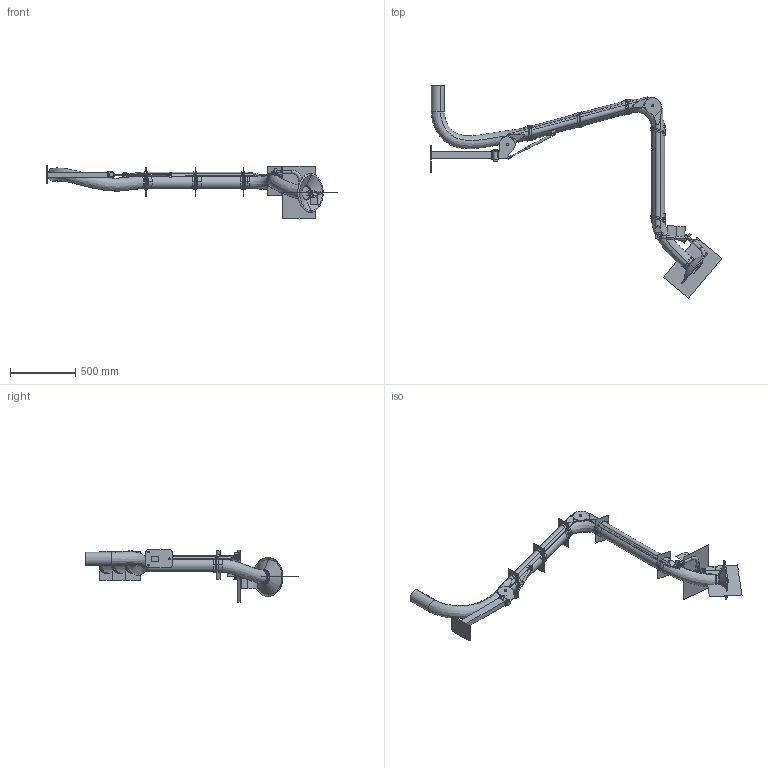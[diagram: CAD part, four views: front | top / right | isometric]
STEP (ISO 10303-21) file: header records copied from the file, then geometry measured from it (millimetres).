
FILE_DESCRIPTION((''),'2;1');
FILE_NAME('131010','2020-01-16T09:36:07',('Tomas Bellgran'),(''),'CREO PARAMETRIC BY PTC INC, 2018260','CREO PARAMETRIC BY PTC INC, 2018260','');
FILE_SCHEMA(('AUTOMOTIVE_DESIGN { 1 0 10303 214 1 1 1 1 }'));
Products named in the file (33): 131085_LIGHT; 131041; 131045_LIGHT; 131045; 144355; 131150; 139380; 131151; 131170; 144356; 131125_LIGHT; 131125; 131111_LIGHT; 131111; 130317; ROD_STAB_8-160-REF; 131095; 130322_AF21; 131145; 131131_AF0; 131134_AF0; 131139; 107520; 107540; 139635; 139656; 139614; 139630; SKRUVSATS_LITEN; SKRUVSATS_BIG; SKRUVSATS_LITEN-2; SKRUVSATS_BIGGEST; 131010
Assembly tree (52 placements, depth 3):
  131010
    131041
      131085_LIGHT
    131045
      131045_LIGHT
    144355  x4
    131150
    131170
      139380
      131151
    144356  x2
    131125
      131125_LIGHT
    131111
      131111_LIGHT
    130322_AF21
      130317
      ROD_STAB_8-160-REF
      131095  x2
    131145  x2
    131139  x5
      131131_AF0
      131134_AF0
    107520  x5
    107540
    139630
      139635  x3
      139656
      139614
    SKRUVSATS_LITEN  x2
    SKRUVSATS_BIG  x2
    SKRUVSATS_LITEN-2  x2
    SKRUVSATS_BIGGEST  x2
Bounding box: 2229.14 x 1623.53 x 404.5 mm (x, y, z)
Volume: 29987289.9 mm3; surface area: 2801523.4 mm2
Topology: 48 solids, 90 shells, 1224 faces, 2859 edges, 1771 vertices
Faces by surface type: cylinder 403, plane 358, bspline 326, torus 90, cone 34, extrusion 13
Entity records: 72027 total; most frequent: CARTESIAN_POINT 33232, POLYLINE 5532, DIRECTION 3623, ORIENTED_EDGE 2940, PRESENTATION_STYLE_ASSIGNMENT 2170, STYLED_ITEM 2127, CURVE_STYLE 1591, EDGE_CURVE 1565
